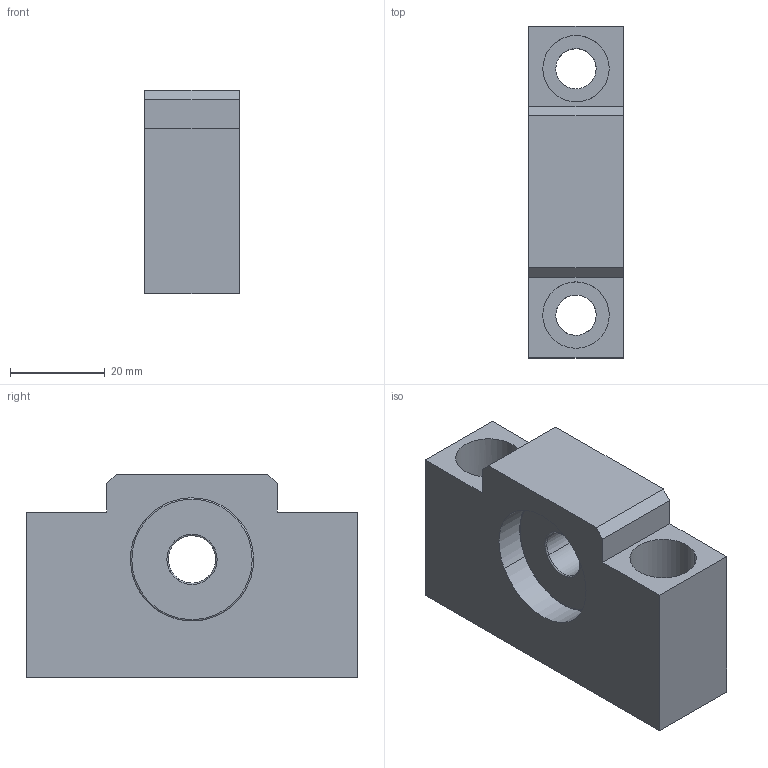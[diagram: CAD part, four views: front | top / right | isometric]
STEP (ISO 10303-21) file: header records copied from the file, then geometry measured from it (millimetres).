
FILE_DESCRIPTION(('CATIA V5 STEP Exchange'),'2;1');
FILE_NAME('D:\서포트 완성도면\AF\AF12.stp','2014-03-17T10:08:00+00:00',('none'),('none'),'CATIA Version 5 Release 18 GA (IN-10)','CATIA V5 STEP AP203','none');
FILE_SCHEMA(('CONFIG_CONTROL_DESIGN'));
Length unit declared in the file: millimetre
Products named in the file (1): AF12
Assembly tree (2 placements, depth 2):
  AF12
    #56
    #1099
Bounding box: 20 x 70 x 43 mm (x, y, z)
Volume: 41565.8 mm3; surface area: 14315.7 mm2
Topology: 2 solids, 2 shells, 42 faces, 100 edges, 64 vertices
Faces by surface type: plane 16, cylinder 14, torus 12
Entity records: 1688 total; most frequent: CARTESIAN_POINT 671, ORIENTED_EDGE 200, DIRECTION 165, EDGE_CURVE 100, AXIS2_PLACEMENT_3D 77, VERTEX_POINT 64, EDGE_LOOP 52, VECTOR 44
